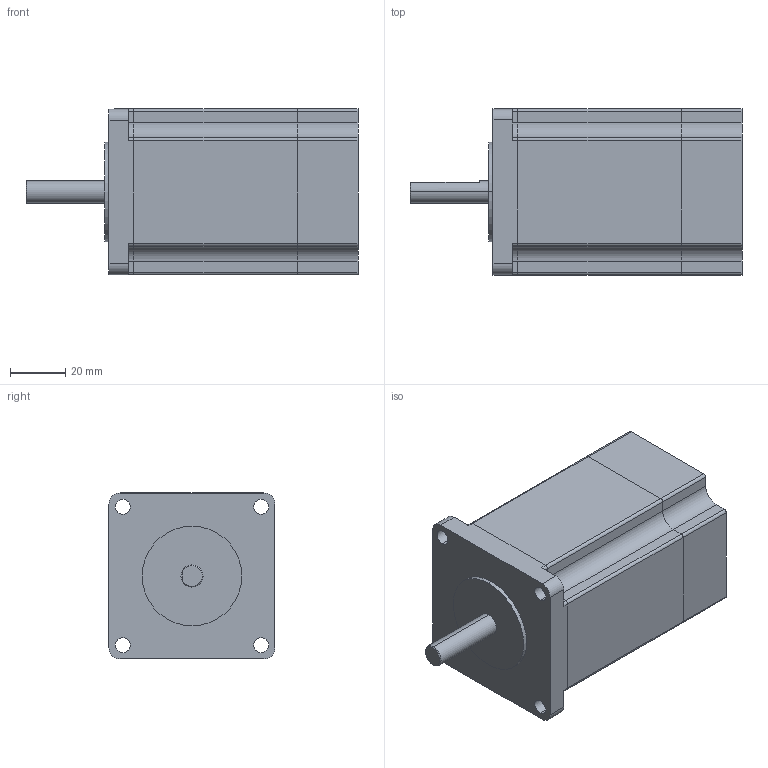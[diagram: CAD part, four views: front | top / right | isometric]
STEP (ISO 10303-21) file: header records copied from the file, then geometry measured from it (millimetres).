
FILE_DESCRIPTION (( 'STEP AP203' ), '1' );
FILE_NAME ('TM2401A50A-P1000.STEP', '2019-02-16T03:07:50', ( 'User' ), ( 'www.dadighost.com' ), 'SwSTEP 2.0', 'SolidWorks 2014', '' );
FILE_SCHEMA (( 'CONFIG_CONTROL_DESIGN' ));
Length unit declared in the file: millimetre
Products named in the file (1): TM2401A50A-P1000
Bounding box: 120 x 60 x 60 mm (x, y, z)
Volume: 292103.1 mm3; surface area: 41597.9 mm2
Topology: 3 solids, 3 shells, 105 faces, 289 edges, 192 vertices
Faces by surface type: cylinder 52, plane 50, cone 3
Entity records: 3467 total; most frequent: DIRECTION 608, CARTESIAN_POINT 593, ORIENTED_EDGE 578, EDGE_CURVE 289, AXIS2_PLACEMENT_3D 215, VERTEX_POINT 192, LINE 178, VECTOR 178
